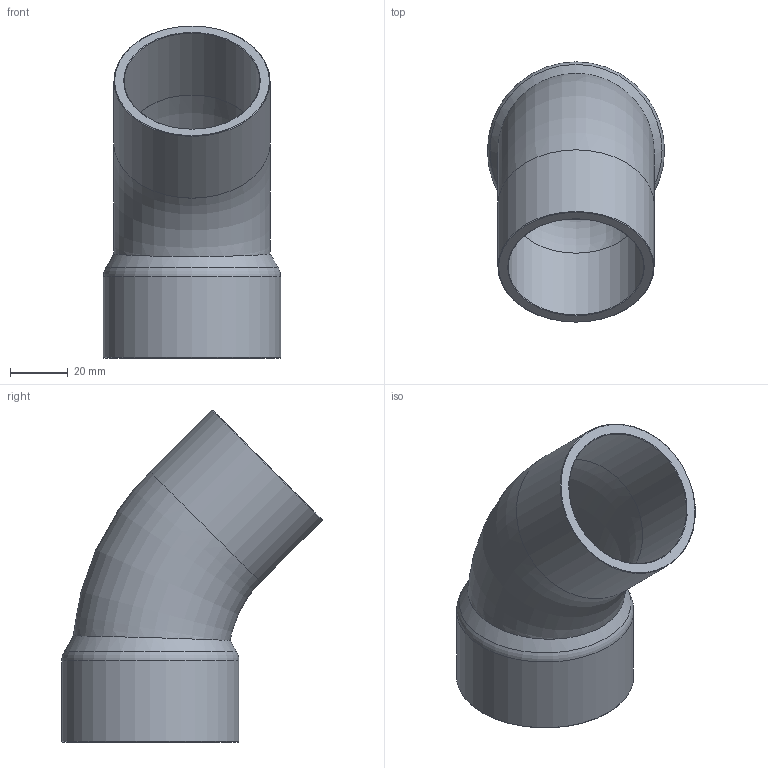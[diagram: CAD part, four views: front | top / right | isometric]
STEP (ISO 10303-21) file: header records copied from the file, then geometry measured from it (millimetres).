
FILE_DESCRIPTION((''),'2;1');
FILE_NAME('G:\SANHA-Ternat\Technik\Management\Bouwmaten + markeringen\z-maattekeningen 3D\29000s\29040218_3d.stp','2017-07-26T14:37:00',('vdvijverd'),(''),'Autodesk Inventor 2009','Autodesk Inventor 2009','');
FILE_SCHEMA(('AUTOMOTIVE_DESIGN { 1 0 10303 214 1 1 1 1 }'));
Length unit declared in the file: millimetre
Products named in the file (1): 29040218_3d
Bounding box: 61.26 x 90.04 x 114.76 mm (x, y, z)
Volume: 64896.4 mm3; surface area: 37695.1 mm2
Topology: 1 solids, 1 shells, 18 faces, 34 edges, 20 vertices
Faces by surface type: cone 6, plane 4, cylinder 4, torus 3, bspline 1
Full cylindrical faces by diameter (mm): 46.875 x1, 53.975 x1, 54.155 x1, 61.255 x1
Entity records: 500 total; most frequent: CARTESIAN_POINT 171, DIRECTION 68, ORIENTED_EDGE 36, EDGE_LOOP 36, AXIS2_PLACEMENT_3D 34, VERTEX_POINT 18, EDGE_CURVE 18, FACE_OUTER_BOUND 18
